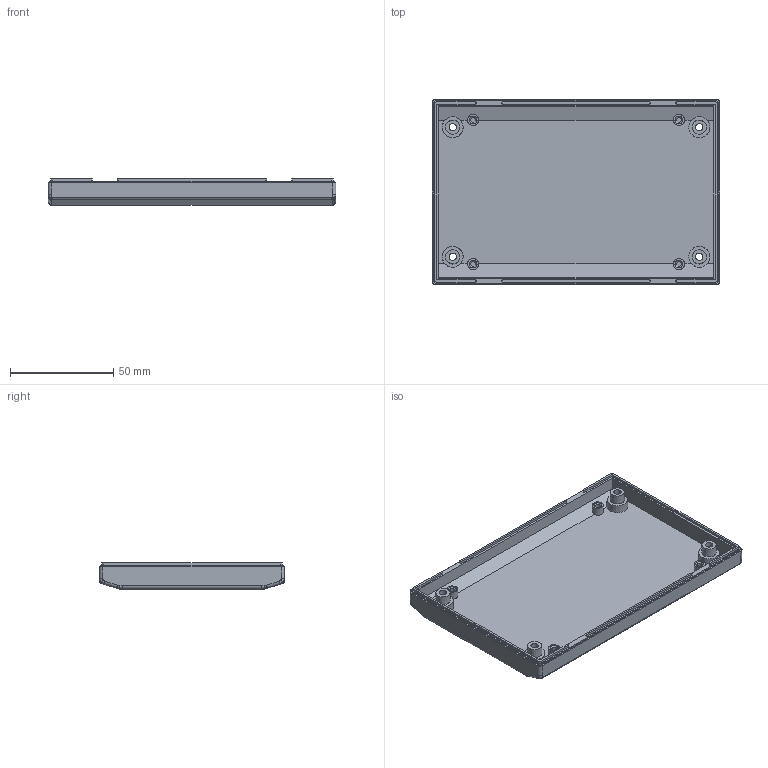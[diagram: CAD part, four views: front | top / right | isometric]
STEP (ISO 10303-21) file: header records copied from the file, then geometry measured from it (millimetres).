
FILE_DESCRIPTION((''),'2;1');
FILE_NAME('E:\Eng\Customer Service\Drawings\1597\STEP\1597X - Lid.stp','2010-10-29T09:15:19',('tcook'),(''),'Autodesk Inventor 2011','Autodesk Inventor 2011','');
FILE_SCHEMA(('AUTOMOTIVE_DESIGN { 1 0 10303 214 1 1 1 1 }'));
Length unit declared in the file: inch
Products named in the file (1): 1597X - Lid
Bounding box: 139.68 x 89.9 x 12.7 mm (x, y, z)
Volume: 50916 mm3; surface area: 35311.5 mm2
Topology: 1 solids, 1 shells, 174 faces, 430 edges, 276 vertices
Faces by surface type: plane 60, bspline 48, cylinder 46, cone 16, torus 4
Full cylindrical faces by diameter (mm): 2.54 x4, 3.556 x4, 6.985 x4
Entity records: 7200 total; most frequent: CARTESIAN_POINT 3403, ORIENTED_EDGE 780, DIRECTION 704, EDGE_CURVE 390, AXIS2_PLACEMENT_3D 283, VERTEX_POINT 268, EDGE_LOOP 232, FACE_OUTER_BOUND 174
